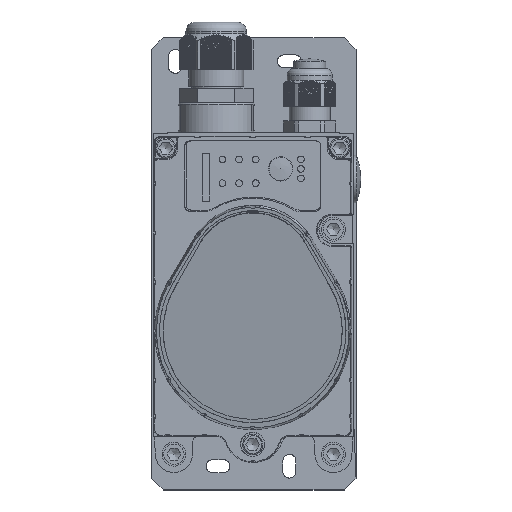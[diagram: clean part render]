
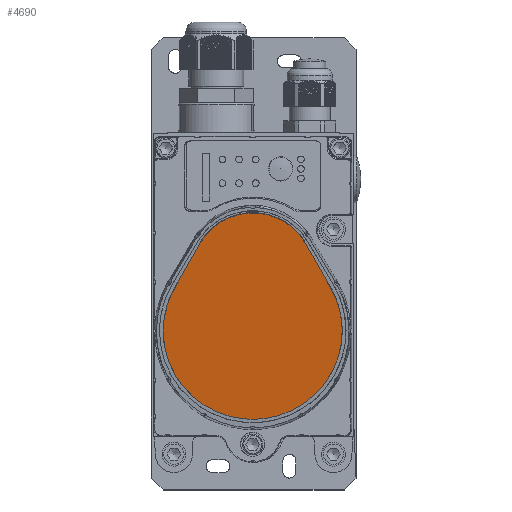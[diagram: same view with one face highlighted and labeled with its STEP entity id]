
A CAD part, top view. The second image highlights one B-rep face of the part: STEP entity #4690.
In plain terms, the highlighted free-form (B-spline) face has degree [1, 1] with [2, 2] control points.
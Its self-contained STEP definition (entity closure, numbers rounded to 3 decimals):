
#4635=CARTESIAN_POINT('F826',(80.58,4.351,
   85.256));
#4636=CARTESIAN_POINT('F826',(80.58,95.347,
   101.302));
#4637=CARTESIAN_POINT('F826',(1.62,4.351,
   85.256));
#4638=CARTESIAN_POINT('F826',(1.62,95.347,
   101.302));
#4639=B_SPLINE_SURFACE_WITH_KNOTS('F826',1,1,((#4635,#4637),(
   #4636,#4638)),.PLANE_SURF.,.F.,.F.,.U.,(2,2),(2,2),(0.0,
   1.17),(0.0,1.0),.UNSPECIFIED.);
#4640=CARTESIAN_POINT('V1538',(73.919,61.616,
   95.354));
#4641=VERTEX_POINT('V1538',#4640);
#4642=CARTESIAN_POINT('V1539',(8.281,61.616,
   95.354));
#4643=VERTEX_POINT('V1539',#4642);
#4644=CARTESIAN_POINT('E2332',(73.919,61.616,
   95.354));
#4645=CARTESIAN_POINT('E2332',(105.199,6.518,
   85.638));
#4646=CARTESIAN_POINT('E2332',(41.1,6.518,
   85.638));
#4647=CARTESIAN_POINT('E2332',(-22.999,6.518,
   85.638));
#4648=CARTESIAN_POINT('E2332',(8.281,61.616,
   95.354));
#4656=(BOUNDED_CURVE()B_SPLINE_CURVE(2,(#4644,#4645,#4646,#4647,
   #4648),.CIRCULAR_ARC.,.F.,.U.)B_SPLINE_CURVE_WITH_KNOTS((3,2,3),
   (0.0,0.5,1.0),.UNSPECIFIED.)CURVE()
   GEOMETRIC_REPRESENTATION_ITEM()RATIONAL_B_SPLINE_CURVE((1.0,
   0.506,1.0,0.506,1.0))REPRESENTATION_ITEM(
   'E2332'));
#4657=EDGE_CURVE('E2332',#4641,#4643,#4656,.T.);
#4658=ORIENTED_EDGE('E2332',*,*,#4657,.F.);
#4659=CARTESIAN_POINT('V1540',(63.27,80.373,
   98.661));
#4660=VERTEX_POINT('V1540',#4659);
#4661=CARTESIAN_POINT('E2333',(73.919,61.616,
   95.354));
#4662=CARTESIAN_POINT('E2333',(63.27,80.373,
   98.661));
#4663=QUASI_UNIFORM_CURVE('E2333',1,(#4661,#4662),.POLYLINE_FORM.,
   .F.,.U.);
#4664=EDGE_CURVE('E2333',#4641,#4660,#4663,.T.);
#4665=ORIENTED_EDGE('E2333',*,*,#4664,.T.);
#4666=CARTESIAN_POINT('V1541',(18.93,80.373,
   98.661));
#4667=VERTEX_POINT('V1541',#4666);
#4668=CARTESIAN_POINT('E2334',(63.27,80.373,
   98.661));
#4669=CARTESIAN_POINT('E2334',(55.999,93.181,
   100.92));
#4670=CARTESIAN_POINT('E2334',(41.1,93.181,
   100.92));
#4671=CARTESIAN_POINT('E2334',(26.201,93.181,
   100.92));
#4672=CARTESIAN_POINT('E2334',(18.93,80.373,
   98.661));
#4680=(BOUNDED_CURVE()B_SPLINE_CURVE(2,(#4668,#4669,#4670,#4671,
   #4672),.CIRCULAR_ARC.,.F.,.U.)B_SPLINE_CURVE_WITH_KNOTS((3,2,3),
   (0.0,0.5,1.0),.UNSPECIFIED.)CURVE()
   GEOMETRIC_REPRESENTATION_ITEM()RATIONAL_B_SPLINE_CURVE((1.0,
   0.863,1.0,0.863,1.0))REPRESENTATION_ITEM(
   'E2334'));
#4681=EDGE_CURVE('E2334',#4660,#4667,#4680,.T.);
#4682=ORIENTED_EDGE('E2334',*,*,#4681,.T.);
#4683=CARTESIAN_POINT('E2335',(18.93,80.373,
   98.661));
#4684=CARTESIAN_POINT('E2335',(8.281,61.616,
   95.354));
#4685=QUASI_UNIFORM_CURVE('E2335',1,(#4683,#4684),.POLYLINE_FORM.,
   .F.,.U.);
#4686=EDGE_CURVE('E2335',#4667,#4643,#4685,.T.);
#4687=ORIENTED_EDGE('E2335',*,*,#4686,.T.);
#4688=EDGE_LOOP('F826',(#4658,#4665,#4682,#4687));
#4689=FACE_OUTER_BOUND('F826',#4688,.T.);
#4690=ADVANCED_FACE('F826',(#4689),#4639,.T.);
